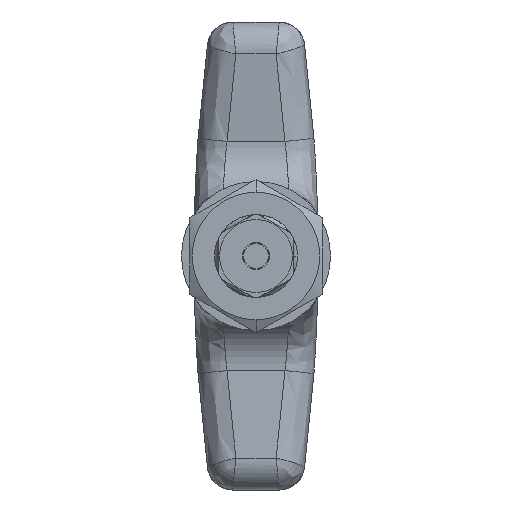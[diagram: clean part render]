
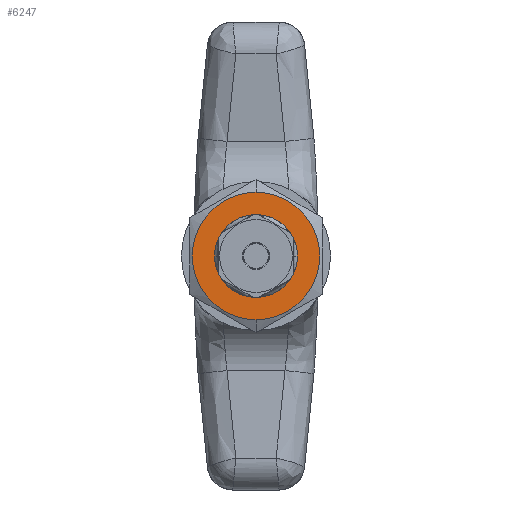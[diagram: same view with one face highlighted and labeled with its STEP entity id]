
A CAD part, left-side view. The second image highlights one B-rep face of the part: STEP entity #6247.
In plain terms, the highlighted planar face has unit normal (-1, 0, 0) as drawn and (0, 0, -1) by its records, which use the part's own axes.
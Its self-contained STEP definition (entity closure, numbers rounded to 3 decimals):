
#5908=CARTESIAN_POINT('',(0.,0.,-2.5));
#5909=DIRECTION('',(0.,0.,-1.));
#5910=DIRECTION('',(1.,0.,0.));
#5911=AXIS2_PLACEMENT_3D('',#5908,#5909,#5910);
#5916=CARTESIAN_POINT('',(0.,0.,-2.5));
#5917=DIRECTION('',(0.,0.,-1.));
#5918=DIRECTION('',(-1.,0.,0.));
#5919=AXIS2_PLACEMENT_3D('',#5916,#5917,#5918);
#5924=CARTESIAN_POINT('',(0.,0.,-2.5));
#5925=DIRECTION('',(0.,0.,-1.));
#5926=DIRECTION('',(-1.,0.,0.));
#5927=AXIS2_PLACEMENT_3D('',#5924,#5925,#5926);
#5932=CARTESIAN_POINT('',(0.,0.,-2.5));
#5933=DIRECTION('',(0.,0.,-1.));
#5934=DIRECTION('',(1.,0.,0.));
#5935=AXIS2_PLACEMENT_3D('',#5932,#5933,#5934);
#6200=CARTESIAN_POINT('',(4.46,0.,-2.5));
#6201=CARTESIAN_POINT('',(-4.46,0.,-2.5));
#6202=VERTEX_POINT('',#6200);
#6203=VERTEX_POINT('',#6201);
#6208=CARTESIAN_POINT('',(-7.7,0.,-2.5));
#6209=CARTESIAN_POINT('',(7.7,0.,-2.5));
#6210=VERTEX_POINT('',#6208);
#6211=VERTEX_POINT('',#6209);
#6230=CARTESIAN_POINT('',(0.,0.,-2.5));
#6231=DIRECTION('',(0.,0.,1.));
#6232=DIRECTION('',(1.,0.,0.));
#6233=AXIS2_PLACEMENT_3D('',#6230,#6231,#6232);
#6234=PLANE('',#6233);
#6236=ORIENTED_EDGE('',*,*,#6235,.F.);
#6238=ORIENTED_EDGE('',*,*,#6237,.F.);
#6239=EDGE_LOOP('',(#6236,#6238));
#6240=FACE_OUTER_BOUND('',#6239,.F.);
#6242=ORIENTED_EDGE('',*,*,#6241,.T.);
#6244=ORIENTED_EDGE('',*,*,#6243,.T.);
#6245=EDGE_LOOP('',(#6242,#6244));
#6246=FACE_BOUND('',#6245,.F.);
#6247=ADVANCED_FACE('',(#6240,#6246),#6234,.F.);
#5912=CIRCLE('',#5911,4.46);
#5920=CIRCLE('',#5919,4.46);
#5928=CIRCLE('',#5927,7.7);
#5936=CIRCLE('',#5935,7.7);
#6235=EDGE_CURVE('',#6210,#6211,#5928,.T.);
#6237=EDGE_CURVE('',#6211,#6210,#5936,.T.);
#6241=EDGE_CURVE('',#6202,#6203,#5912,.T.);
#6243=EDGE_CURVE('',#6203,#6202,#5920,.T.);
